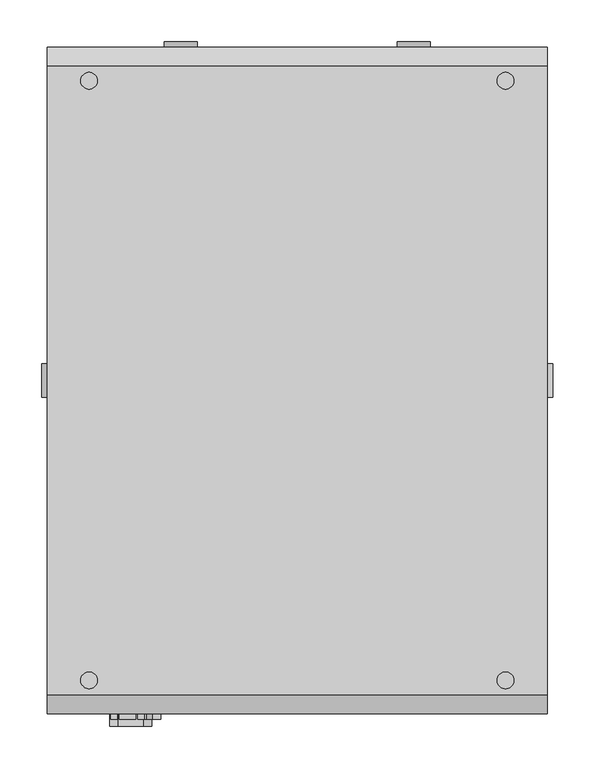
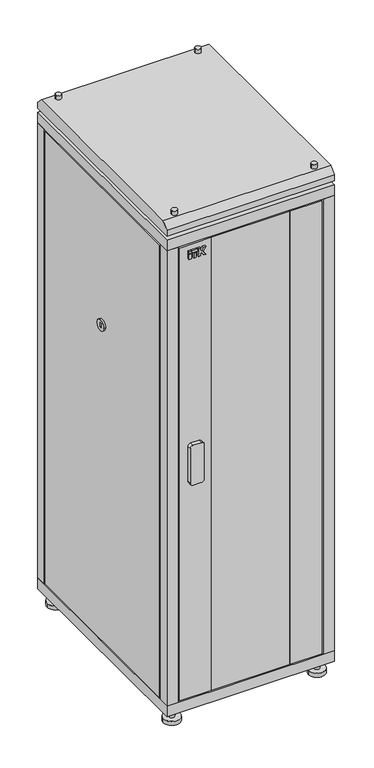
"""IFC4 building model written with IfcOpenShell, lengths in millimetres: proxy geometry, Шкафы ITK серия N_05 : LN05-38U68-G."""

from ifc_helpers import new_model, si_unit, point, frame, frame_2d, origin, origin_with_axes, place, context, project, spatial, polyline, circle_curve, trimmed, segment, composite_curve, outline, extrude, faceted_brep, source, transform, mapped, element, save
from ifc_brep_helpers import plane_surface, cylinder_surface, advanced_brep


def electrical_fixtures_7b50809f(model_context):
    return source(origin(), model_context, "Body", "SolidModel", [
        extrude(outline(polyline([(-215.9746193, -407.0), (-224.197592, -407.0), (-224.197592, -400.0), (-215.9746193, -400.0), (-215.9746193, -407.0)])), frame((0.0, 0.0, 1757.0), z_axis=(0.0, 0.0, 1.0), x_axis=(1.0, 0.0, 0.0)), (0.0, 0.0, 1.0), 18.8087618),
        extrude(outline(polyline([(-199.9605777, -407.0), (-207.7053315, -407.0), (-207.7053315, -400.0), (-199.9605777, -400.0), (-199.9605777, -407.0)])), frame((0.0, 0.0, 1757.0), z_axis=(0.0, 0.0, 1.0), x_axis=(1.0, 0.0, 0.0)), (0.0, 0.0, 1.0), 18.8087618),
        extrude(outline(polyline([(-215.9746193, -407.0), (-224.197592, -407.0), (-224.197592, -400.0), (-215.9746193, -400.0), (-215.9746193, -407.0)])), frame((0.0, 0.0, 1778.4305892), z_axis=(0.0, 0.0, 1.0), x_axis=(1.0, 0.0, 0.0)), (0.0, 0.0, 1.0), 7.9794747),
        extrude(outline(polyline([(1757.0, -191.5184175), (1757.0, -183.7669278), (1768.0271455, -183.7669278), (1768.0271455, -180.8031229), (1757.0, -173.6420108), (1757.0, -164.197592), (1771.7278745, -174.8980192), (1786.410064, -164.197592), (1786.410064, -173.6420108), (1775.3829184, -180.8031229), (1775.3829184, -183.7669278), (1786.410064, -183.7669278), (1786.410064, -191.5184175), (1757.0, -191.5184175)])), frame((0.0, -407.0, 0.0), z_axis=(0.0, 1.0, 0.0), x_axis=(0.0, 0.0, 1.0)), (0.0, 0.0, 1.0), 7.0),
        extrude(outline(polyline([(-194.0851324, -407.0), (-213.5807768, -407.0), (-213.5807768, -400.0), (-194.0851324, -400.0), (-194.0851324, -407.0)])), frame((0.0, 0.0, 1778.4305892), z_axis=(0.0, 0.0, 1.0), x_axis=(1.0, 0.0, 0.0)), (0.0, 0.0, 1.0), 7.9794747),
        extrude(outline(composite_curve([segment(polyline([(1056.0, -185.0), (1056.0, -215.0)]), True, "CONTINUOUS"), segment(trimmed(circle_curve(frame_2d((1046.0, -215.0)), 10.0), [point((1056.0, -215.0))], [point((1046.0, -225.0))], False, "CARTESIAN"), True, "CONTINUOUS"), segment(polyline([(1046.0, -225.0), (916.0, -225.0)]), True, "CONTINUOUS"), segment(trimmed(circle_curve(frame_2d((916.0, -215.0)), 10.0), [point((916.0, -225.0))], [point((906.0, -215.0))], False, "CARTESIAN"), True, "CONTINUOUS"), segment(polyline([(906.0, -215.0), (906.0, -185.0)]), True, "CONTINUOUS"), segment(trimmed(circle_curve(frame_2d((916.0, -185.0)), 10.0), [point((906.0, -185.0))], [point((916.0, -175.0))], False, "CARTESIAN"), True, "CONTINUOUS"), segment(polyline([(916.0, -175.0), (1046.0, -175.0)]), True, "CONTINUOUS"), segment(trimmed(circle_curve(frame_2d((1046.0, -185.0)), 10.0), [point((1046.0, -175.0))], [point((1056.0, -185.0))], False, "CARTESIAN"), True, "CONTINUOUS")], self_intersect=False)), frame((0.0, -415.0, 0.0), z_axis=(0.0, 1.0, 0.0), x_axis=(0.0, 0.0, 1.0)), (0.0, 0.0, 1.0), 15.0),
        extrude(outline(polyline([(140.0, -380.0), (140.0, -400.0), (-140.0, -400.0), (-140.0, -380.0), (140.0, -380.0)])), frame((0.0, 0.0, 95.0), z_axis=(0.0, 0.0, 1.0), x_axis=(1.0, 0.0, 0.0)), (0.0, 0.0, 1.0), 1712.0),
        extrude(outline(polyline([(255.0, -380.0), (255.0, -400.0), (140.0, -400.0), (140.0, -380.0), (235.0, -380.0), (235.0, -365.0), (245.0, -365.0), (245.0, -380.0), (255.0, -380.0)])), frame((0.0, 0.0, 95.0), z_axis=(0.0, 0.0, 1.0), x_axis=(1.0, 0.0, 0.0)), (0.0, 0.0, 1.0), 1712.0),
        extrude(outline(polyline([(-140.0, -400.0), (-255.0, -400.0), (-255.0, -380.0), (-245.0, -380.0), (-245.0, -365.0), (-235.0, -365.0), (-235.0, -380.0), (-140.0, -380.0), (-140.0, -400.0)])), frame((0.0, 0.0, 95.0), z_axis=(0.0, 0.0, 1.0), x_axis=(1.0, 0.0, 0.0)), (0.0, 0.0, 1.0), 1712.0),
        extrude(outline(composite_curve([segment(trimmed(circle_curve(frame_2d((-260.0, 360.0)), 10.0), [point((-250.0, 360.0))], [point((-270.0, 360.0))], False, "CARTESIAN"), True, "CONTINUOUS"), segment(trimmed(circle_curve(frame_2d((-260.0, 360.0)), 10.0), [point((-270.0, 360.0))], [point((-250.0, 360.0))], False, "CARTESIAN"), True, "CONTINUOUS")], self_intersect=False)), frame((0.0, 0.0, 15.0), z_axis=(0.0, 0.0, 1.0), x_axis=(1.0, 0.0, 0.0)), (0.0, 0.0, 1.0), 35.0),
        extrude(outline(composite_curve([segment(trimmed(circle_curve(frame_2d((260.0, 360.0)), 10.0), [point((270.0, 360.0))], [point((250.0, 360.0))], False, "CARTESIAN"), True, "CONTINUOUS"), segment(trimmed(circle_curve(frame_2d((260.0, 360.0)), 10.0), [point((250.0, 360.0))], [point((270.0, 360.0))], False, "CARTESIAN"), True, "CONTINUOUS")], self_intersect=False)), frame((0.0, 0.0, 15.0), z_axis=(0.0, 0.0, 1.0), x_axis=(1.0, 0.0, 0.0)), (0.0, 0.0, 1.0), 35.0),
        extrude(outline(composite_curve([segment(trimmed(circle_curve(frame_2d((-260.0, -360.0)), 10.0), [point((-250.0, -360.0))], [point((-270.0, -360.0))], False, "CARTESIAN"), True, "CONTINUOUS"), segment(trimmed(circle_curve(frame_2d((-260.0, -360.0)), 10.0), [point((-270.0, -360.0))], [point((-250.0, -360.0))], False, "CARTESIAN"), True, "CONTINUOUS")], self_intersect=False)), frame((0.0, 0.0, 15.0), z_axis=(0.0, 0.0, 1.0), x_axis=(1.0, 0.0, 0.0)), (0.0, 0.0, 1.0), 35.0),
        extrude(outline(composite_curve([segment(trimmed(circle_curve(frame_2d((260.0, -360.0)), 10.0), [point((270.0, -360.0))], [point((250.0, -360.0))], False, "CARTESIAN"), True, "CONTINUOUS"), segment(trimmed(circle_curve(frame_2d((260.0, -360.0)), 10.0), [point((250.0, -360.0))], [point((270.0, -360.0))], False, "CARTESIAN"), True, "CONTINUOUS")], self_intersect=False)), frame((0.0, 0.0, 15.0), z_axis=(0.0, 0.0, 1.0), x_axis=(1.0, 0.0, 0.0)), (0.0, 0.0, 1.0), 35.0),
        extrude(outline(composite_curve([segment(trimmed(circle_curve(frame_2d((-260.0, 360.0)), 30.0), [point((-230.0, 360.0))], [point((-290.0, 360.0))], False, "CARTESIAN"), True, "CONTINUOUS"), segment(trimmed(circle_curve(frame_2d((-260.0, 360.0)), 30.0), [point((-290.0, 360.0))], [point((-230.0, 360.0))], False, "CARTESIAN"), True, "CONTINUOUS")], self_intersect=False)), origin_with_axes(), (0.0, 0.0, 1.0), 15.0),
        extrude(outline(composite_curve([segment(trimmed(circle_curve(frame_2d((260.0, 360.0)), 30.0), [point((290.0, 360.0))], [point((230.0, 360.0))], False, "CARTESIAN"), True, "CONTINUOUS"), segment(trimmed(circle_curve(frame_2d((260.0, 360.0)), 30.0), [point((230.0, 360.0))], [point((290.0, 360.0))], False, "CARTESIAN"), True, "CONTINUOUS")], self_intersect=False)), origin_with_axes(), (0.0, 0.0, 1.0), 15.0),
        extrude(outline(composite_curve([segment(trimmed(circle_curve(frame_2d((-260.0, -360.0)), 30.0), [point((-230.0, -360.0))], [point((-290.0, -360.0))], False, "CARTESIAN"), True, "CONTINUOUS"), segment(trimmed(circle_curve(frame_2d((-260.0, -360.0)), 30.0), [point((-290.0, -360.0))], [point((-230.0, -360.0))], False, "CARTESIAN"), True, "CONTINUOUS")], self_intersect=False)), origin_with_axes(), (0.0, 0.0, 1.0), 15.0),
        extrude(outline(composite_curve([segment(trimmed(circle_curve(frame_2d((260.0, -360.0)), 30.0), [point((290.0, -360.0))], [point((230.0, -360.0))], False, "CARTESIAN"), True, "CONTINUOUS"), segment(trimmed(circle_curve(frame_2d((260.0, -360.0)), 30.0), [point((230.0, -360.0))], [point((290.0, -360.0))], False, "CARTESIAN"), True, "CONTINUOUS")], self_intersect=False)), origin_with_axes(), (0.0, 0.0, 1.0), 15.0),
        advanced_brep(
        [(260.0, 360.0, 1927.0), (240.0, 360.0, 1927.0), (260.0, -360.0, 1927.0), (240.0, -360.0, 1927.0), (-240.0, 360.0, 1927.0), (-260.0, 360.0, 1927.0), (-240.0, -360.0, 1927.0), (-260.0, -360.0, 1927.0), (260.0, 360.0, 1852.0), (240.0, 360.0, 1852.0), (260.0, -360.0, 1852.0), (240.0, -360.0, 1852.0), (-240.0, 360.0, 1852.0), (-260.0, 360.0, 1852.0), (-240.0, -360.0, 1852.0), (-260.0, -360.0, 1852.0), (260.0, 360.0, 1912.0), (240.0, 360.0, 1912.0), (240.0, 360.0, 1867.0), (260.0, 360.0, 1867.0), (260.0, -360.0, 1912.0), (240.0, -360.0, 1912.0), (240.0, -360.0, 1867.0), (260.0, -360.0, 1867.0), (-240.0, 360.0, 1912.0), (-260.0, 360.0, 1912.0), (-260.0, 360.0, 1867.0), (-240.0, 360.0, 1867.0), (-240.0, -360.0, 1912.0), (-260.0, -360.0, 1912.0), (-260.0, -360.0, 1867.0), (-240.0, -360.0, 1867.0), (300.0, 377.5, 1912.0), (300.0, -377.5, 1912.0), (300.0, -400.0, 1889.5), (300.0, -400.0, 1867.0), (300.0, 400.0, 1867.0), (300.0, 400.0, 1889.5), (-300.0, 377.5, 1912.0), (-300.0, 400.0, 1889.5), (-300.0, 400.0, 1867.0), (-300.0, -400.0, 1867.0), (-300.0, -400.0, 1889.5), (-300.0, -377.5, 1912.0)],
        [
            (0, 1, circle_curve(frame((250.0, 360.0, 1927.0), z_axis=(0.0, 0.0, 1.0), x_axis=(-1.0, 0.0, 0.0)), 10.0)),
            (1, 0, circle_curve(frame((250.0, 360.0, 1927.0), z_axis=(0.0, 0.0, 1.0), x_axis=(-1.0, 0.0, 0.0)), 10.0)),
            (2, 3, circle_curve(frame((250.0, -360.0, 1927.0), z_axis=(0.0, 0.0, 1.0), x_axis=(-1.0, 0.0, 0.0)), 10.0)),
            (3, 2, circle_curve(frame((250.0, -360.0, 1927.0), z_axis=(0.0, 0.0, 1.0), x_axis=(-1.0, 0.0, 0.0)), 10.0)),
            (4, 5, circle_curve(frame((-250.0, 360.0, 1927.0), z_axis=(0.0, 0.0, 1.0), x_axis=(-1.0, 0.0, 0.0)), 10.0)),
            (5, 4, circle_curve(frame((-250.0, 360.0, 1927.0), z_axis=(0.0, 0.0, 1.0), x_axis=(-1.0, 0.0, 0.0)), 10.0)),
            (6, 7, circle_curve(frame((-250.0, -360.0, 1927.0), z_axis=(0.0, 0.0, 1.0), x_axis=(-1.0, 0.0, 0.0)), 10.0)),
            (7, 6, circle_curve(frame((-250.0, -360.0, 1927.0), z_axis=(0.0, 0.0, 1.0), x_axis=(-1.0, 0.0, 0.0)), 10.0)),
            (8, 9, circle_curve(frame((250.0, 360.0, 1852.0), z_axis=(0.0, 0.0, -1.0), x_axis=(-1.0, 0.0, 0.0)), 10.0)),
            (9, 8, circle_curve(frame((250.0, 360.0, 1852.0), z_axis=(0.0, 0.0, -1.0), x_axis=(-1.0, 0.0, 0.0)), 10.0)),
            (10, 11, circle_curve(frame((250.0, -360.0, 1852.0), z_axis=(0.0, 0.0, -1.0), x_axis=(-1.0, 0.0, 0.0)), 10.0)),
            (11, 10, circle_curve(frame((250.0, -360.0, 1852.0), z_axis=(0.0, 0.0, -1.0), x_axis=(-1.0, 0.0, 0.0)), 10.0)),
            (12, 13, circle_curve(frame((-250.0, 360.0, 1852.0), z_axis=(0.0, 0.0, -1.0), x_axis=(-1.0, 0.0, 0.0)), 10.0)),
            (13, 12, circle_curve(frame((-250.0, 360.0, 1852.0), z_axis=(0.0, 0.0, -1.0), x_axis=(-1.0, 0.0, 0.0)), 10.0)),
            (14, 15, circle_curve(frame((-250.0, -360.0, 1852.0), z_axis=(0.0, 0.0, -1.0), x_axis=(-1.0, 0.0, 0.0)), 10.0)),
            (15, 14, circle_curve(frame((-250.0, -360.0, 1852.0), z_axis=(0.0, 0.0, -1.0), x_axis=(-1.0, 0.0, 0.0)), 10.0)),
            (0, 16),
            (16, 17, circle_curve(frame((250.0, 360.0, 1912.0), z_axis=(0.0, 0.0, 1.0), x_axis=(-1.0, 0.0, 0.0)), 10.0)),
            (17, 1),
            (9, 18),
            (18, 19, circle_curve(frame((250.0, 360.0, 1867.0), z_axis=(0.0, 0.0, -1.0), x_axis=(-1.0, 0.0, 0.0)), 10.0)),
            (19, 8),
            (17, 16, circle_curve(frame((250.0, 360.0, 1912.0), z_axis=(0.0, 0.0, 1.0), x_axis=(-1.0, 0.0, 0.0)), 10.0)),
            (19, 18, circle_curve(frame((250.0, 360.0, 1867.0), z_axis=(0.0, 0.0, -1.0), x_axis=(-1.0, 0.0, 0.0)), 10.0)),
            (2, 20),
            (20, 21, circle_curve(frame((250.0, -360.0, 1912.0), z_axis=(0.0, 0.0, 1.0), x_axis=(-1.0, 0.0, 0.0)), 10.0)),
            (21, 3),
            (11, 22),
            (22, 23, circle_curve(frame((250.0, -360.0, 1867.0), z_axis=(0.0, 0.0, -1.0), x_axis=(-1.0, 0.0, 0.0)), 10.0)),
            (23, 10),
            (21, 20, circle_curve(frame((250.0, -360.0, 1912.0), z_axis=(0.0, 0.0, 1.0), x_axis=(-1.0, 0.0, 0.0)), 10.0)),
            (23, 22, circle_curve(frame((250.0, -360.0, 1867.0), z_axis=(0.0, 0.0, -1.0), x_axis=(-1.0, 0.0, 0.0)), 10.0)),
            (4, 24),
            (24, 25, circle_curve(frame((-250.0, 360.0, 1912.0), z_axis=(0.0, 0.0, 1.0), x_axis=(-1.0, 0.0, 0.0)), 10.0)),
            (25, 5),
            (13, 26),
            (26, 27, circle_curve(frame((-250.0, 360.0, 1867.0), z_axis=(0.0, 0.0, -1.0), x_axis=(-1.0, 0.0, 0.0)), 10.0)),
            (27, 12),
            (25, 24, circle_curve(frame((-250.0, 360.0, 1912.0), z_axis=(0.0, 0.0, 1.0), x_axis=(-1.0, 0.0, 0.0)), 10.0)),
            (27, 26, circle_curve(frame((-250.0, 360.0, 1867.0), z_axis=(0.0, 0.0, -1.0), x_axis=(-1.0, 0.0, 0.0)), 10.0)),
            (6, 28),
            (28, 29, circle_curve(frame((-250.0, -360.0, 1912.0), z_axis=(0.0, 0.0, 1.0), x_axis=(-1.0, 0.0, 0.0)), 10.0)),
            (29, 7),
            (15, 30),
            (30, 31, circle_curve(frame((-250.0, -360.0, 1867.0), z_axis=(0.0, 0.0, -1.0), x_axis=(-1.0, 0.0, 0.0)), 10.0)),
            (31, 14),
            (29, 28, circle_curve(frame((-250.0, -360.0, 1912.0), z_axis=(0.0, 0.0, 1.0), x_axis=(-1.0, 0.0, 0.0)), 10.0)),
            (31, 30, circle_curve(frame((-250.0, -360.0, 1867.0), z_axis=(0.0, 0.0, -1.0), x_axis=(-1.0, 0.0, 0.0)), 10.0)),
            (32, 33),
            (33, 34),
            (34, 35),
            (35, 36),
            (36, 37),
            (37, 32),
            (38, 39),
            (39, 40),
            (40, 41),
            (41, 42),
            (42, 43),
            (43, 38),
            (32, 38),
            (43, 33),
            (42, 34),
            (41, 35),
            (40, 36),
            (39, 37),
        ],
        [
            plane_surface(frame((240.0, 360.0, 1927.0), z_axis=(0.0, 0.0, 1.0), x_axis=(0.0, -1.0, 0.0))),
            plane_surface(frame((240.0, 360.0, 1852.0), z_axis=(0.0, 0.0, -1.0), x_axis=(0.0, 1.0, 0.0))),
            cylinder_surface(frame((250.0, 360.0, 1852.0), z_axis=(0.0, 0.0, 1.0), x_axis=(-1.0, 0.0, 0.0)), 10.0),
            cylinder_surface(frame((250.0, -360.0, 1710.0), z_axis=(0.0, 0.0, 1.0), x_axis=(-1.0, 0.0, 0.0)), 10.0),
            cylinder_surface(frame((-250.0, 360.0, 1710.0), z_axis=(0.0, 0.0, 1.0), x_axis=(-1.0, 0.0, 0.0)), 10.0),
            cylinder_surface(frame((-250.0, -360.0, 1710.0), z_axis=(0.0, 0.0, 1.0), x_axis=(-1.0, 0.0, 0.0)), 10.0),
            plane_surface(frame((300.0, -377.5, 1912.0), z_axis=(1.0, 0.0, 0.0), x_axis=(0.0, -1.0, 0.0))),
            plane_surface(frame((-300.0, -377.5, 1912.0), z_axis=(-1.0, 0.0, 0.0), x_axis=(0.0, 1.0, 0.0))),
            plane_surface(frame((300.0, 377.5, 1912.0), z_axis=(0.0, 0.0, 1.0), x_axis=(-1.0, 0.0, 0.0))),
            plane_surface(frame((300.0, -377.5, 1912.0), z_axis=(0.0, -0.7071067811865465, 0.7071067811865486), x_axis=(-1.0, 0.0, 0.0))),
            plane_surface(frame((300.0, -400.0, 1889.5), z_axis=(0.0, -1.0, 0.0), x_axis=(-1.0, 0.0, 0.0))),
            plane_surface(frame((300.0, -400.0, 1867.0), z_axis=(0.0, 0.0, -1.0), x_axis=(-1.0, 0.0, 0.0))),
            plane_surface(frame((300.0, 400.0, 1867.0), z_axis=(0.0, 1.0, 0.0), x_axis=(-1.0, 0.0, 0.0))),
            plane_surface(frame((300.0, 400.0, 1889.5), z_axis=(0.0, 0.7071067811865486, 0.7071067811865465), x_axis=(-1.0, 0.0, 0.0))),
        ],
        [
            (0, [[1, 2]]),
            (0, [[3, 4]]),
            (0, [[5, 6]]),
            (0, [[7, 8]]),
            (1, [[9, 10]]),
            (1, [[11, 12]]),
            (1, [[13, 14]]),
            (1, [[15, 16]]),
            (2, [[-1, 17, 18, 19]]),
            (2, [[-10, 20, 21, 22]]),
            (2, [[-2, -19, 23, -17]]),
            (2, [[-9, -22, 24, -20]]),
            (3, [[-3, 25, 26, 27]]),
            (3, [[-12, 28, 29, 30]]),
            (3, [[-4, -27, 31, -25]]),
            (3, [[-11, -30, 32, -28]]),
            (4, [[-5, 33, 34, 35]]),
            (4, [[-14, 36, 37, 38]]),
            (4, [[-6, -35, 39, -33]]),
            (4, [[-13, -38, 40, -36]]),
            (5, [[-7, 41, 42, 43]]),
            (5, [[-16, 44, 45, 46]]),
            (5, [[-8, -43, 47, -41]]),
            (5, [[-15, -46, 48, -44]]),
            (6, [[49, 50, 51, 52, 53, 54]]),
            (7, [[55, 56, 57, 58, 59, 60]]),
            (8, [[-49, 61, -60, 62], [-18, -23], [-26, -31], [-34, -39], [-42, -47]]),
            (9, [[-50, -62, -59, 63]]),
            (10, [[-51, -63, -58, 64]]),
            (11, [[-52, -64, -57, 65], [-21, -24], [-29, -32], [-37, -40], [-45, -48]]),
            (12, [[-53, -65, -56, 66]]),
            (13, [[-54, -66, -55, -61]]),
        ],
    ),
        extrude(outline(polyline([(260.0, 360.0), (260.0, 345.0), (290.0, 345.0), (290.0, -345.0), (260.0, -345.0), (260.0, -360.0), (245.0, -360.0), (245.0, -380.0), (-245.0, -380.0), (-245.0, -360.0), (-260.0, -360.0), (-260.0, -345.0), (-290.0, -345.0), (-290.0, 345.0), (-260.0, 345.0), (-260.0, 360.0), (-245.0, 360.0), (-245.0, 390.0), (245.0, 390.0), (245.0, 360.0), (260.0, 360.0)])), frame((0.0, 0.0, 90.0), z_axis=(0.0, 0.0, 1.0), x_axis=(1.0, 0.0, 0.0)), (0.0, 0.0, 1.0), 5.0),
        extrude(outline(polyline([(260.0, 360.0), (260.0, 345.0), (290.0, 345.0), (290.0, -345.0), (260.0, -345.0), (260.0, -360.0), (245.0, -360.0), (245.0, -380.0), (-245.0, -380.0), (-245.0, -360.0), (-260.0, -360.0), (-260.0, -345.0), (-290.0, -345.0), (-290.0, 345.0), (-260.0, 345.0), (-260.0, 360.0), (-245.0, 360.0), (-245.0, 390.0), (245.0, 390.0), (245.0, 360.0), (260.0, 360.0)])), frame((0.0, 0.0, 1807.0), z_axis=(0.0, 0.0, 1.0), x_axis=(1.0, 0.0, 0.0)), (0.0, 0.0, 1.0), 5.0),
        extrude(outline(polyline([(300.0, -400.0), (-300.0, -400.0), (-300.0, 400.0), (300.0, 400.0), (300.0, -400.0)])), frame((0.0, 0.0, 1812.0), z_axis=(0.0, 0.0, 1.0), x_axis=(1.0, 0.0, 0.0)), (0.0, 0.0, 1.0), 40.0),
        extrude(outline(polyline([(300.0, -400.0), (-300.0, -400.0), (-300.0, 400.0), (300.0, 400.0), (300.0, -400.0)])), frame((0.0, 0.0, 50.0), z_axis=(0.0, 0.0, 1.0), x_axis=(1.0, 0.0, 0.0)), (0.0, 0.0, 1.0), 40.0),
        extrude(outline(composite_curve([segment(trimmed(circle_curve(frame_2d((951.0, 140.0)), 20.0), [point((951.0, 160.0))], [point((951.0, 120.0))], False, "CARTESIAN"), True, "CONTINUOUS"), segment(trimmed(circle_curve(frame_2d((951.0, 140.0)), 20.0), [point((951.0, 120.0))], [point((951.0, 160.0))], False, "CARTESIAN"), True, "CONTINUOUS")], self_intersect=False), holes=[polyline([(942.7814397, 137.0), (959.2185603, 137.0), (959.2185603, 143.0), (942.7814397, 143.0), (942.7814397, 137.0)])]), frame((0.0, 400.0, 0.0), z_axis=(0.0, 1.0, 0.0), x_axis=(0.0, 0.0, 1.0)), (0.0, 0.0, 1.0), 7.0),
        extrude(outline(composite_curve([segment(trimmed(circle_curve(frame_2d((951.0, -140.0)), 20.0), [point((951.0, -120.0))], [point((951.0, -160.0))], False, "CARTESIAN"), True, "CONTINUOUS"), segment(trimmed(circle_curve(frame_2d((951.0, -140.0)), 20.0), [point((951.0, -160.0))], [point((951.0, -120.0))], False, "CARTESIAN"), True, "CONTINUOUS")], self_intersect=False), holes=[polyline([(942.7814397, -143.0), (959.2185603, -143.0), (959.2185603, -137.0), (942.7814397, -137.0), (942.7814397, -143.0)])]), frame((0.0, 400.0, 0.0), z_axis=(0.0, 1.0, 0.0), x_axis=(0.0, 0.0, 1.0)), (0.0, 0.0, 1.0), 7.0),
        faceted_brep([(255.0, 400.0, 1807.0), (-255.0, 400.0, 1807.0), (-255.0, 370.0, 1807.0), (-245.0, 370.0, 1807.0), (-245.0, 390.0, 1807.0), (245.0, 390.0, 1807.0), (245.0, 370.0, 1807.0), (255.0, 370.0, 1807.0), (255.0, 400.0, 1634.5265979), (-255.0, 400.0, 1634.5265979), (175.0, 400.0, 1682.0), (175.0, 400.0, 1762.0), (-175.0, 400.0, 1762.0), (-175.0, 400.0, 1682.0), (-255.0, 370.0, 1634.5265979), (-245.0, 370.0, 1634.5265979), (-245.0, 390.0, 1634.5265979), (245.0, 390.0, 1634.5265979), (175.0, 390.0, 1762.0), (175.0, 390.0, 1682.0), (-175.0, 390.0, 1682.0), (-175.0, 390.0, 1762.0), (245.0, 370.0, 1634.5265979), (255.0, 370.0, 1634.5265979)], [[[0, 1, 2, 3, 4, 5, 6, 7]], [[1, 0, 8, 9], [10, 11, 12, 13]], [[2, 1, 9, 14]], [[3, 2, 14, 15]], [[4, 3, 15, 16]], [[5, 4, 16, 17], [18, 19, 20, 21]], [[6, 5, 17, 22]], [[7, 6, 22, 23]], [[0, 7, 23, 8]], [[9, 8, 23, 22, 17, 16, 15, 14]], [[10, 19, 18, 11]], [[11, 18, 21, 12]], [[12, 21, 20, 13]], [[19, 10, 13, 20]]]),
        faceted_brep([(255.0, 400.0, 95.0), (255.0, 370.0, 95.0), (245.0, 370.0, 95.0), (245.0, 390.0, 95.0), (-245.0, 390.0, 95.0), (-245.0, 370.0, 95.0), (-255.0, 370.0, 95.0), (-255.0, 400.0, 95.0), (-255.0, 400.0, 267.4734021), (255.0, 400.0, 267.4734021), (175.0, 400.0, 220.0), (-175.0, 400.0, 220.0), (-175.0, 400.0, 140.0), (175.0, 400.0, 140.0), (-255.0, 370.0, 267.4734021), (-245.0, 370.0, 267.4734021), (-245.0, 390.0, 267.4734021), (245.0, 390.0, 267.4734021), (-175.0, 390.0, 220.0), (175.0, 390.0, 220.0), (175.0, 390.0, 140.0), (-175.0, 390.0, 140.0), (245.0, 370.0, 267.4734021), (255.0, 370.0, 267.4734021)], [[[0, 1, 2, 3, 4, 5, 6, 7]], [[0, 7, 8, 9], [10, 11, 12, 13]], [[7, 6, 14, 8]], [[6, 5, 15, 14]], [[5, 4, 16, 15]], [[4, 3, 17, 16], [18, 19, 20, 21]], [[3, 2, 22, 17]], [[2, 1, 23, 22]], [[1, 0, 9, 23]], [[9, 8, 14, 15, 16, 17, 22, 23]], [[10, 19, 18, 11]], [[11, 18, 21, 12]], [[12, 21, 20, 13]], [[19, 10, 13, 20]]]),
        faceted_brep([(255.0, 400.0, 1629.4734021), (255.0, 400.0, 272.5265979), (-255.0, 400.0, 272.5265979), (-255.0, 400.0, 1629.4734021), (-255.0, 370.0, 272.5265979), (-255.0, 370.0, 1629.4734021), (-245.0, 370.0, 272.5265979), (-245.0, 370.0, 1629.4734021), (-245.0, 390.0, 272.5265979), (-245.0, 390.0, 1629.4734021), (245.0, 390.0, 272.5265979), (245.0, 390.0, 1629.4734021), (245.0, 370.0, 272.5265979), (245.0, 370.0, 1629.4734021), (255.0, 370.0, 272.5265979), (255.0, 370.0, 1629.4734021)], [[[0, 1, 2, 3]], [[3, 2, 4, 5]], [[5, 4, 6, 7]], [[7, 6, 8, 9]], [[9, 8, 10, 11]], [[11, 10, 12, 13]], [[13, 12, 14, 15]], [[1, 0, 15, 14]], [[2, 1, 14, 12, 10, 8, 6, 4]], [[0, 3, 5, 7, 9, 11, 13, 15]]]),
        faceted_brep([(-170.0, 400.0, 215.0), (170.0, 400.0, 215.0), (170.0, 400.0, 145.0), (-170.0, 400.0, 145.0), (170.0, 390.0, 215.0), (-170.0, 390.0, 215.0), (-170.0, 390.0, 145.0), (170.0, 390.0, 145.0)], [[[0, 1, 2, 3]], [[4, 5, 6, 7]], [[0, 5, 4, 1]], [[1, 4, 7, 2]], [[2, 7, 6, 3]], [[5, 0, 3, 6]]]),
        faceted_brep([(-170.0, 400.0, 1687.0), (-170.0, 400.0, 1757.0), (170.0, 400.0, 1757.0), (170.0, 400.0, 1687.0), (-170.0, 390.0, 1757.0), (-170.0, 390.0, 1687.0), (170.0, 390.0, 1687.0), (170.0, 390.0, 1757.0)], [[[0, 1, 2, 3]], [[4, 5, 6, 7]], [[0, 5, 4, 1]], [[1, 4, 7, 2]], [[2, 7, 6, 3]], [[5, 0, 3, 6]]]),
        extrude(outline(composite_curve([segment(trimmed(circle_curve(frame_2d((0.0, 1291.3333333)), 20.0), [point((-20.0, 1291.3333333))], [point((20.0, 1291.3333333))], False, "CARTESIAN"), True, "CONTINUOUS"), segment(trimmed(circle_curve(frame_2d((0.0, 1291.3333333)), 20.0), [point((20.0, 1291.3333333))], [point((-20.0, 1291.3333333))], False, "CARTESIAN"), True, "CONTINUOUS")], self_intersect=False), holes=[polyline([(3.0, 1283.114773), (3.0, 1299.5518937), (-3.0, 1299.5518937), (-3.0, 1283.114773), (3.0, 1283.114773)])]), frame((300.0, 0.0, 0.0), z_axis=(1.0, 0.0, 0.0), x_axis=(0.0, 1.0, 0.0)), (0.0, 0.0, 1.0), 7.0),
        extrude(outline(composite_curve([segment(trimmed(circle_curve(frame_2d((0.0, 1291.3333333)), 20.0), [point((20.0, 1291.3333333))], [point((-20.0, 1291.3333333))], False, "CARTESIAN"), True, "CONTINUOUS"), segment(trimmed(circle_curve(frame_2d((0.0, 1291.3333333)), 20.0), [point((-20.0, 1291.3333333))], [point((20.0, 1291.3333333))], False, "CARTESIAN"), True, "CONTINUOUS")], self_intersect=False), holes=[polyline([(-3.0, 1283.114773), (3.0, 1283.114773), (3.0, 1299.5518937), (-3.0, 1299.5518937), (-3.0, 1283.114773)])]), frame((-307.0, 0.0, 0.0), z_axis=(1.0, 0.0, 0.0), x_axis=(0.0, 1.0, 0.0)), (0.0, 0.0, 1.0), 7.0),
        extrude(outline(polyline([(-270.0, 355.0), (-270.0, 345.0), (-289.9803177, 345.0), (-289.9803177, -345.0), (-269.9803177, -345.0), (-269.9803177, -355.0), (-300.0, -355.0), (-300.0, 355.0), (-270.0, 355.0)])), frame((0.0, 0.0, 95.0), z_axis=(0.0, 0.0, 1.0), x_axis=(1.0, 0.0, 0.0)), (0.0, 0.0, 1.0), 1712.0),
        extrude(outline(polyline([(269.9803177, 355.0), (300.0, 355.0), (300.0, -355.0), (269.9803177, -355.0), (269.9803177, -345.0), (289.9803177, -345.0), (289.9803177, 345.0), (269.9803177, 345.0), (269.9803177, 355.0)])), frame((0.0, 0.0, 95.0), z_axis=(0.0, 0.0, 1.0), x_axis=(1.0, 0.0, 0.0)), (0.0, 0.0, 1.0), 1712.0),
        extrude(outline(polyline([(-270.0, -360.0), (-270.0, -345.0), (-260.0, -345.0), (-260.0, -360.0), (-245.0, -360.0), (-245.0, -380.0), (-260.0, -380.0), (-260.0, -400.0), (-300.0, -400.0), (-300.0, -360.0), (-270.0, -360.0)]), holes=[polyline([(-267.0, -363.0), (-297.0, -363.0), (-297.0, -397.0), (-263.0, -397.0), (-263.0, -377.0), (-248.0, -377.0), (-248.0, -363.0), (-263.0, -363.0), (-263.0, -348.0), (-267.0, -348.0), (-267.0, -363.0)])]), frame((0.0, 0.0, 90.0), z_axis=(0.0, 0.0, 1.0), x_axis=(1.0, 0.0, 0.0)), (0.0, 0.0, 1.0), 1722.0),
        extrude(outline(polyline([(270.0, -360.0), (300.0, -360.0), (300.0, -400.0), (260.0, -400.0), (260.0, -380.0), (245.0, -380.0), (245.0, -360.0), (260.0, -360.0), (260.0, -345.0), (270.0, -345.0), (270.0, -360.0)]), holes=[polyline([(297.0, -397.0), (297.0, -363.0), (267.0, -363.0), (267.0, -348.0), (263.0, -348.0), (263.0, -363.0), (248.0, -363.0), (248.0, -377.0), (263.0, -377.0), (263.0, -397.0), (297.0, -397.0)])]), frame((0.0, 0.0, 90.0), z_axis=(0.0, 0.0, 1.0), x_axis=(1.0, 0.0, 0.0)), (0.0, 0.0, 1.0), 1722.0),
        extrude(outline(polyline([(270.0, 360.0), (270.0, 345.0), (260.0, 345.0), (260.0, 360.0), (245.0, 360.0), (245.0, 370.0), (260.0, 370.0), (260.0, 400.0), (300.0, 400.0), (300.0, 360.0), (270.0, 360.0)]), holes=[polyline([(297.0, 363.0), (297.0, 397.0), (263.0, 397.0), (263.0, 367.0), (248.0, 367.0), (248.0, 363.0), (263.0, 363.0), (263.0, 348.0), (267.0, 348.0), (267.0, 363.0), (297.0, 363.0)])]), frame((0.0, 0.0, 90.0), z_axis=(0.0, 0.0, 1.0), x_axis=(1.0, 0.0, 0.0)), (0.0, 0.0, 1.0), 1722.0),
        extrude(outline(polyline([(-270.0, 360.0), (-300.0, 360.0), (-300.0, 400.0), (-260.0, 400.0), (-260.0, 370.0), (-245.0, 370.0), (-245.0, 360.0), (-260.0, 360.0), (-260.0, 345.0), (-270.0, 345.0), (-270.0, 360.0)]), holes=[polyline([(-297.0, 397.0), (-297.0, 363.0), (-267.0, 363.0), (-267.0, 348.0), (-263.0, 348.0), (-263.0, 363.0), (-248.0, 363.0), (-248.0, 367.0), (-263.0, 367.0), (-263.0, 397.0), (-297.0, 397.0)])]), frame((0.0, 0.0, 90.0), z_axis=(0.0, 0.0, 1.0), x_axis=(1.0, 0.0, 0.0)), (0.0, 0.0, 1.0), 1722.0),
    ])


if __name__ == "__main__":
    model = new_model("IFC4")
    model_context = context("Model", 3, world=origin())
    ifc_project = project(units=[si_unit("LENGTHUNIT", "METRE", prefix="MILLI")], contexts=[model_context])
    site = spatial("IfcSite", under=ifc_project)
    building = spatial("IfcBuilding", under=site)
    placement = place(None, origin())
    electrical_fixtures_shape = electrical_fixtures_7b50809f(model_context)
    element("IfcBuildingElementProxy", 1, Name="Шкафы ITK серия N_05 : LN05-38U68-G", ObjectType="Шкафы ITK серия N_05 : LN05-38U68-G", at=placement, inside=building, context=model_context, shape_type="MappedRepresentation", body=[
        mapped(electrical_fixtures_shape, transform((0.0, 0.0, 0.0), x_axis=(1.0, 0.0, 0.0), y_axis=(0.0, 1.0, 0.0), z_axis=(0.0, 0.0, 1.0))),
    ])
    save(model, "model.ifc")
